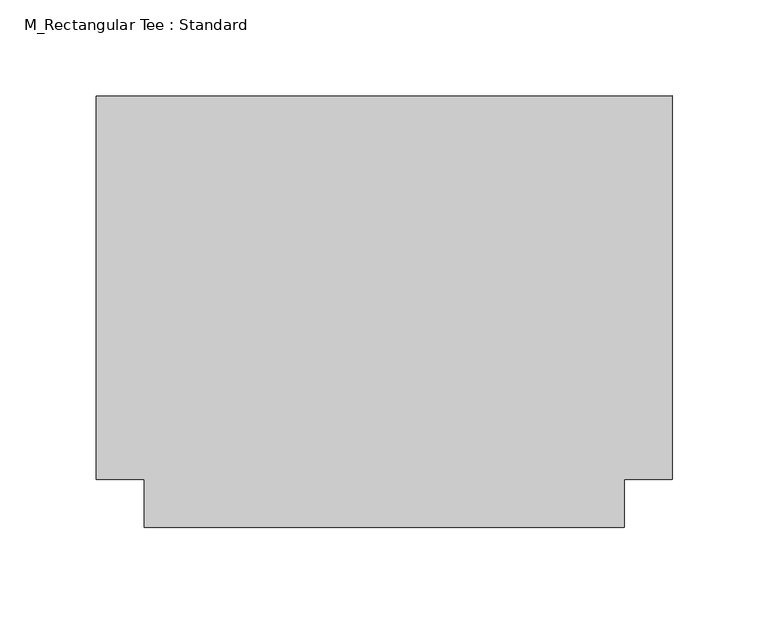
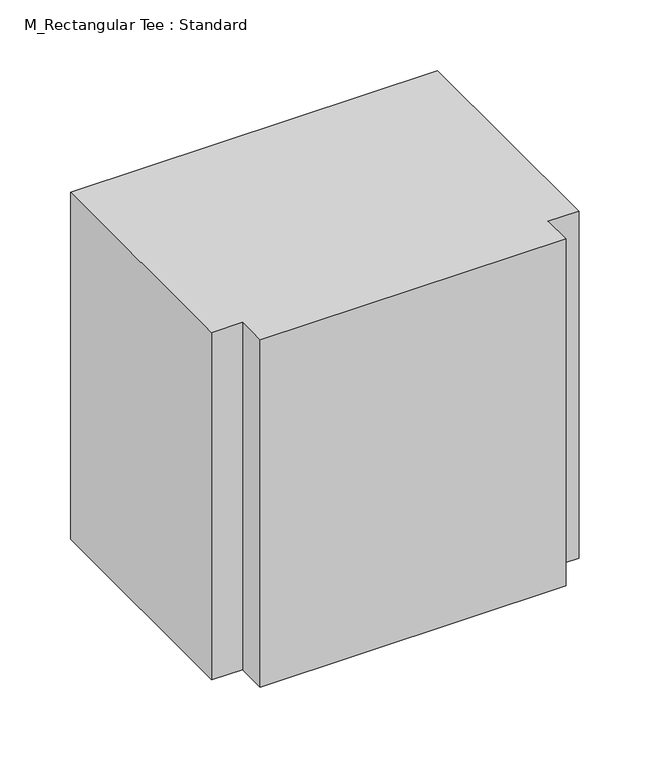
"""IFC4 building model written with IfcOpenShell, lengths in millimetres: duct fitting geometry, M_Rectangular Tee : Standard."""

from ifc_helpers import new_model, si_unit, frame, origin, place, context, project, spatial, polyline, outline, extrude, source, transform, mapped, element, save


def m_rectangular_tee_standard_8f40cb32(model_context):
    return source(origin(), model_context, "Body", "SweptSolid", [
        extrude(outline(polyline([(-150.0, -100.0), (-150.0, 100.0), (150.0, 100.0), (150.0, -100.0), (125.0, -100.0), (125.0, -125.0), (-125.0, -125.0), (-125.0, -100.0), (-150.0, -100.0)])), frame((0.0, 0.0, -150.0), z_axis=(0.0, 0.0, 1.0), x_axis=(1.0, 0.0, 0.0)), (0.0, 0.0, 1.0), 300.0),
    ])


if __name__ == "__main__":
    model = new_model("IFC4")
    model_context = context("Model", 3, world=origin())
    ifc_project = project(units=[si_unit("LENGTHUNIT", "METRE", prefix="MILLI")], contexts=[model_context])
    site = spatial("IfcSite", under=ifc_project)
    building = spatial("IfcBuilding", under=site)
    placement = place(None, origin())
    m_rectangular_tee_standard_shape = m_rectangular_tee_standard_8f40cb32(model_context)
    element("IfcDuctFitting", 1, ObjectType="M_Rectangular Tee : Standard", at=placement, inside=building, context=model_context, shape_type="MappedRepresentation", body=[
        mapped(m_rectangular_tee_standard_shape, transform((0.0, 0.0, 0.0), x_axis=(1.0, 0.0, 0.0), y_axis=(0.0, 1.0, 0.0), z_axis=(0.0, 0.0, 1.0))),
    ])
    save(model, "model.ifc")
